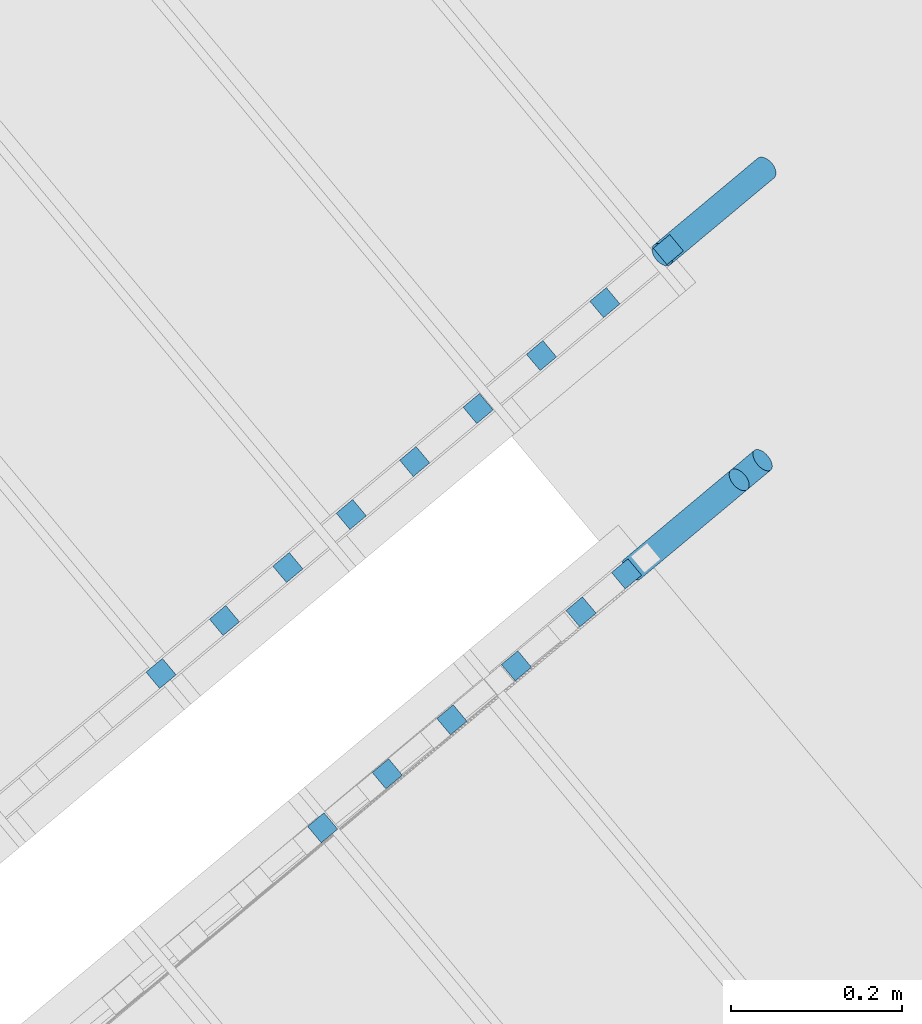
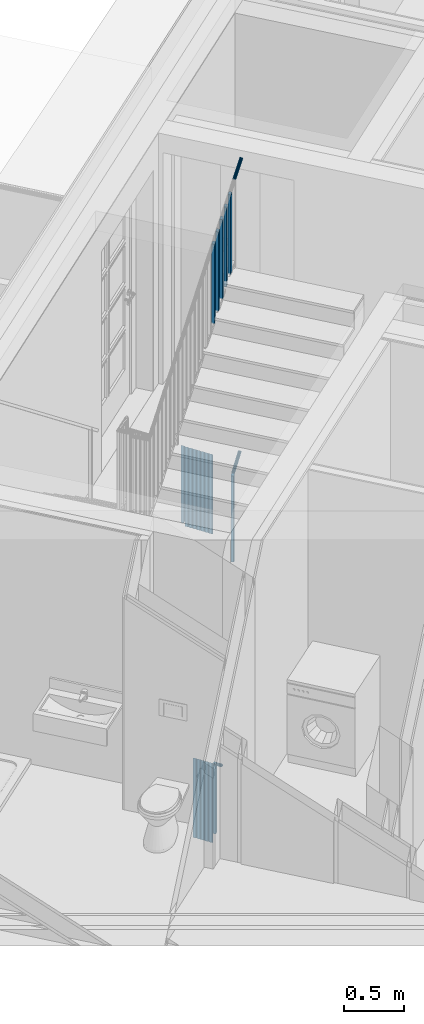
# One storey, part 62 of 75: 23 building element parts, 2 elements without a shape of their own.
"""IFC4 building model written with IfcOpenShell, lengths in metres."""

from ifc_helpers import new_model, entity, si_unit, converted_unit, derived_unit, direction, frame, origin_with_axes, place, context, subcontext, project, spatial, polygons, material, type_object, element, aggregate, save


model = new_model("IFC4")

# Units and contexts
model_context = context("Model", 3, precision=1e-05, world=origin_with_axes(), true_north=direction((0.0, 1.0)))
body_context = subcontext(model_context, "Body", "Model", "MODEL_VIEW")
ifc_project = project(units=[si_unit("LENGTHUNIT", "METRE"), si_unit("AREAUNIT", "SQUARE_METRE"), si_unit("VOLUMEUNIT", "CUBIC_METRE"), converted_unit("PLANEANGLEUNIT", "DEGREE", entity("IfcPlaneAngleMeasure", 0.0174532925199), si_unit("PLANEANGLEUNIT", "RADIAN"), dimensions=[0, 0, 0, 0, 0, 0, 0]), converted_unit("TIMEUNIT", "Year", entity("IfcTimeMeasure", 31556926.0), si_unit("TIMEUNIT", "SECOND"), dimensions=[0, 0, 1, 0, 0, 0, 0]), si_unit("MASSUNIT", "GRAM", prefix="KILO"), si_unit("THERMODYNAMICTEMPERATUREUNIT", "DEGREE_CELSIUS"), si_unit("LUMINOUSINTENSITYUNIT", "LUMEN"), si_unit("ENERGYUNIT", "JOULE", prefix="MEGA"), derived_unit("THERMALCONDUCTANCEUNIT", [(si_unit("POWERUNIT", "WATT"), 1), (si_unit("LENGTHUNIT", "METRE"), -1), (si_unit("THERMODYNAMICTEMPERATUREUNIT", "KELVIN"), -1)]), derived_unit("SPECIFICHEATCAPACITYUNIT", [(si_unit("ENERGYUNIT", "JOULE"), 1), (si_unit("MASSUNIT", "GRAM", prefix="KILO"), -1), (si_unit("THERMODYNAMICTEMPERATUREUNIT", "KELVIN"), -1)]), derived_unit("MASSDENSITYUNIT", [(si_unit("MASSUNIT", "GRAM", prefix="KILO"), 1), (si_unit("VOLUMEUNIT", "CUBIC_METRE"), -1)])], contexts=[model_context])

# Site, building, storey, space
site_placement = place(None, frame((-0.00153261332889, -0.00661245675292, 0.0), z_axis=(0.0, 0.0, 1.0), x_axis=(1.0, 0.0, 0.0)))
site = spatial("IfcSite", under=ifc_project, at=site_placement, Name="Gelände", CompositionType="ELEMENT")
building_placement = place(site_placement, origin_with_axes())
building = spatial("IfcBuilding", under=site, at=building_placement, Name="Gebäude", CompositionType="ELEMENT")
storey_placement = place(building_placement, frame((0.0, 0.0, -0.22), z_axis=(0.0, 0.0, 1.0), x_axis=(1.0, 0.0, 0.0)))
storey = spatial("IfcBuildingStorey", under=building, at=storey_placement, Name="EG", CompositionType="ELEMENT", Elevation=-0.22)
space_placement = place(storey_placement, frame((-1.16508896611, 24.7530172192, 0.22), z_axis=(0.0, 0.0, 1.0), x_axis=(0.641170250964, -0.76739866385, 0.0)))
space = spatial("IfcSpace", under=storey, at=space_placement, CompositionType="ELEMENT", PredefinedType="NOTDEFINED")

# Railing, building element parts
railing_type = type_object("IfcRailingType", Name="Geländerart", PredefinedType="NOTDEFINED")
railing_1_placement = place(space_placement, frame((1.19553434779, -1.19750858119e-08, -0.17), z_axis=(0.0, 0.0, 1.0), x_axis=(0.641170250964, 0.76739866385, 0.0)))
railing_1 = element("IfcRailing", 1, at=railing_1_placement, inside=space, type_object=railing_type, Name="Geländer - 001", PredefinedType="NOTDEFINED")
ifc_material = material(Name="BEKLEIDUNG")
building_element_part_1_placement = place(railing_1_placement, origin_with_axes())
building_element_part_1 = element("IfcBuildingElementPart", 2, at=building_element_part_1_placement, material=ifc_material, Name="BEKLEIDUNG", PredefinedType="NOTDEFINED", context=body_context, shape_type="Tessellation", body=[
    polygons([(-0.0621391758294, -0.305826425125, 3.89721601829), (-0.0630386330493, -0.30687497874, 3.89943593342), (0.0677612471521, -0.197578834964, 4.00405784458), (0.068660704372, -0.196530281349, 4.00183792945), (-0.0609474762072, -0.305127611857, 3.89499610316), (-0.0594997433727, -0.304799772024, 3.89284363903), (-0.0578399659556, -0.304852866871, 3.89082402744), (-0.0560185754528, -0.305285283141, 3.88899863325), (-0.054090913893, -0.306083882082, 3.88742292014), (-0.0521155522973, -0.30722439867, 3.88614476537), (-0.0501525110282, -0.308672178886, 3.88520300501), (-0.0482614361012, -0.310383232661, 3.88462625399), (-0.0464997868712, -0.312305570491, 3.88443203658), (-0.0449210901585, -0.314380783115, 3.88462625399), (-0.043573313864, -0.316545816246, 3.88520300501), (-0.0424974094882, -0.318734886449, 3.88614476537), (-0.0417260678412, -0.320881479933, 3.88742292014), (-0.0412827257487, -0.322920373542, 3.88899863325), (-0.0411808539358, -0.324789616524, 3.89082402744), (-0.041423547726, -0.326432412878, 3.89284363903), (-0.0420034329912, -0.327798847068, 3.89499610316), (-0.0429028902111, -0.328847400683, 3.89721601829), (-0.0440945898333, -0.329546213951, 3.89943593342), (-0.0455423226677, -0.329874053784, 3.90158839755), (-0.0472021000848, -0.329820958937, 3.90360800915), (-0.0490234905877, -0.329388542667, 3.90543340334), (-0.0509511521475, -0.328589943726, 3.90700911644), (-0.0529265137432, -0.327449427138, 3.90828727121), (-0.0548895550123, -0.326001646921, 3.90922903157), (-0.0567806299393, -0.324290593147, 3.90980578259), (-0.0585422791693, -0.322368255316, 3.91), (-0.0601209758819, -0.320293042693, 3.90980578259), (-0.0614687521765, -0.318128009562, 3.90922903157), (-0.0625446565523, -0.315938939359, 3.90828727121), (-0.0633159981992, -0.313792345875, 3.90700911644), (-0.0637593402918, -0.311753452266, 3.90543340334), (-0.0638612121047, -0.309884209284, 3.90360800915), (-0.0636185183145, -0.30824141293, 3.90158839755), (0.0671813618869, -0.198945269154, 4.00621030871), (0.0669386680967, -0.200588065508, 4.00822992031), (0.0670405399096, -0.20245730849, 4.0100553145), (0.0674838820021, -0.204496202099, 4.0116310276), (0.0682552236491, -0.206642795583, 4.01290918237), (0.0693311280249, -0.208831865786, 4.01385094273), (0.0706789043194, -0.210996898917, 4.01442769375), (0.0722576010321, -0.213072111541, 4.01462191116), (0.0740192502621, -0.214994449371, 4.01442769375), (0.0759103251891, -0.216705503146, 4.01385094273), (0.0778733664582, -0.218153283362, 4.01290918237), (0.0798487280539, -0.21929379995, 4.0116310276), (0.0817763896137, -0.220092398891, 4.0100553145), (0.0835977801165, -0.220524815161, 4.00822992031), (0.0852575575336, -0.220577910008, 4.00621030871), (0.0867052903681, -0.220250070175, 4.00405784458), (0.0878969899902, -0.219551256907, 4.00183792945), (0.0887964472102, -0.218502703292, 3.99961801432), (0.0893763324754, -0.217136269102, 3.9974655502), (0.0896190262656, -0.215493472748, 3.9954459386), (0.0895171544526, -0.213624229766, 3.99362054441), (0.0890738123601, -0.211585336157, 3.9920448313), (0.0883024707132, -0.209438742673, 3.99076667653), (0.0872265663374, -0.20724967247, 3.98982491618), (0.0858787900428, -0.205084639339, 3.98924816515), (0.0843000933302, -0.203009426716, 3.98905394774), (0.0825384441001, -0.201087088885, 3.98924816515), (0.0806473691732, -0.199376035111, 3.98982491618), (0.0786843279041, -0.197928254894, 3.99076667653), (0.0767089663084, -0.196787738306, 3.9920448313), (0.0747813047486, -0.195989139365, 3.99362054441), (0.0729599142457, -0.195556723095, 3.9954459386), (0.0713001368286, -0.195503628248, 3.9974655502), (0.0698524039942, -0.195831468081, 3.99961801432)], [[[1, 2, 3, 4]], [[1, 5, 6, 7, 8, 9, 10, 11, 12, 13, 14, 15, 16, 17, 18, 19, 20, 21, 22, 23, 24, 25, 26, 27, 28, 29, 30, 31, 32, 33, 34, 35, 36, 37, 38, 2]], [[2, 38, 39, 3]], [[4, 3, 39, 40, 41, 42, 43, 44, 45, 46, 47, 48, 49, 50, 51, 52, 53, 54, 55, 56, 57, 58, 59, 60, 61, 62, 63, 64, 65, 66, 67, 68, 69, 70, 71, 72]], [[5, 1, 4, 72]], [[6, 5, 72, 71]], [[7, 6, 71, 70]], [[8, 7, 70, 69]], [[9, 8, 69, 68]], [[10, 9, 68, 67]], [[11, 10, 67, 66]], [[12, 11, 66, 65]], [[13, 12, 65, 64]], [[14, 13, 64, 63]], [[15, 14, 63, 62]], [[16, 15, 62, 61]], [[17, 16, 61, 60]], [[18, 17, 60, 59]], [[19, 18, 59, 58]], [[20, 19, 58, 57]], [[21, 20, 57, 56]], [[22, 21, 56, 55]], [[23, 22, 55, 54]], [[24, 23, 54, 53]], [[25, 24, 53, 52]], [[26, 25, 52, 51]], [[27, 26, 51, 50]], [[28, 27, 50, 49]], [[29, 28, 49, 48]], [[30, 29, 48, 47]], [[31, 30, 47, 46]], [[32, 31, 46, 45]], [[33, 32, 45, 44]], [[34, 33, 44, 43]], [[35, 34, 43, 42]], [[36, 35, 42, 41]], [[37, 36, 41, 40]], [[38, 37, 40, 39]]], closed=True),
])
building_element_part_2_placement = place(railing_1_placement, origin_with_axes())
building_element_part_2 = element("IfcBuildingElementPart", 3, at=building_element_part_2_placement, material=ifc_material, Name="BEKLEIDUNG", PredefinedType="NOTDEFINED", context=body_context, shape_type="Tessellation", body=[
    polygons([(-0.123876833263, -0.0220565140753, 0.155144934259), (-0.107847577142, -0.0412414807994, 0.155144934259), (-0.107847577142, -0.0412414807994, 0.962644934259), (-0.123876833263, -0.0220565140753, 0.962644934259), (-0.104691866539, -0.00602725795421, 0.135652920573), (-0.0886626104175, -0.0252122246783, 0.135652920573), (-0.0886626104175, -0.0252122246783, 0.943152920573), (-0.104691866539, -0.00602725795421, 0.943152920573)], [[[1, 2, 3, 4]], [[1, 5, 6, 2]], [[2, 6, 7, 3]], [[4, 3, 7, 8]], [[5, 1, 4, 8]], [[6, 5, 8, 7]]], closed=True),
])
building_element_part_3_placement = place(railing_1_placement, origin_with_axes())
building_element_part_3 = element("IfcBuildingElementPart", 4, at=building_element_part_3_placement, material=ifc_material, Name="BEKLEIDUNG", PredefinedType="NOTDEFINED", context=body_context, shape_type="Tessellation", body=[
    polygons([(-0.198088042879, -0.0840608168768, 0.230543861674), (-0.182058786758, -0.103245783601, 0.230543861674), (-0.182058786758, -0.103245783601, 1.03804386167), (-0.198088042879, -0.0840608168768, 1.03804386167), (-0.178903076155, -0.0680315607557, 0.211051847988), (-0.162873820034, -0.0872165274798, 0.211051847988), (-0.162873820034, -0.0872165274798, 1.01855184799), (-0.178903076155, -0.0680315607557, 1.01855184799)], [[[1, 2, 3, 4]], [[1, 5, 6, 2]], [[2, 6, 7, 3]], [[4, 3, 7, 8]], [[5, 1, 4, 8]], [[6, 5, 8, 7]]], closed=True),
])
building_element_part_4_placement = place(railing_1_placement, origin_with_axes())
building_element_part_4 = element("IfcBuildingElementPart", 5, at=building_element_part_4_placement, material=ifc_material, Name="BEKLEIDUNG", PredefinedType="NOTDEFINED", context=body_context, shape_type="Tessellation", body=[
    polygons([(-0.272299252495, -0.146065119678, 0.30594278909), (-0.256269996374, -0.165250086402, 0.30594278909), (-0.256269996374, -0.165250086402, 1.11344278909), (-0.272299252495, -0.146065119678, 1.11344278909), (-0.253114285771, -0.130035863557, 0.286450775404), (-0.23708502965, -0.149220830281, 0.286450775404), (-0.23708502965, -0.149220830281, 1.0939507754), (-0.253114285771, -0.130035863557, 1.0939507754)], [[[1, 2, 3, 4]], [[1, 5, 6, 2]], [[2, 6, 7, 3]], [[4, 3, 7, 8]], [[5, 1, 4, 8]], [[6, 5, 8, 7]]], closed=True),
])
building_element_part_5_placement = place(railing_1_placement, origin_with_axes())
building_element_part_5 = element("IfcBuildingElementPart", 6, at=building_element_part_5_placement, material=ifc_material, Name="BEKLEIDUNG", PredefinedType="NOTDEFINED", context=body_context, shape_type="Tessellation", body=[
    polygons([(-0.346510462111, -0.20806942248, 0.381341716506), (-0.33048120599, -0.227254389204, 0.381341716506), (-0.33048120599, -0.227254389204, 1.18884171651), (-0.346510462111, -0.20806942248, 1.18884171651), (-0.327325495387, -0.192040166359, 0.36184970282), (-0.311296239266, -0.211225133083, 0.36184970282), (-0.311296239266, -0.211225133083, 1.16934970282), (-0.327325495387, -0.192040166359, 1.16934970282)], [[[1, 2, 3, 4]], [[1, 5, 6, 2]], [[2, 6, 7, 3]], [[4, 3, 7, 8]], [[5, 1, 4, 8]], [[6, 5, 8, 7]]], closed=True),
])
building_element_part_6_placement = place(railing_1_placement, origin_with_axes())
building_element_part_6 = element("IfcBuildingElementPart", 7, at=building_element_part_6_placement, material=ifc_material, Name="BEKLEIDUNG", PredefinedType="NOTDEFINED", context=body_context, shape_type="Tessellation", body=[
    polygons([(-0.420721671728, -0.270073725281, 0.456740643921), (-0.404692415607, -0.289258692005, 0.456740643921), (-0.404692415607, -0.289258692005, 1.26424064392), (-0.420721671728, -0.270073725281, 1.26424064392), (-0.401536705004, -0.25404446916, 0.437248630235), (-0.385507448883, -0.273229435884, 0.437248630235), (-0.385507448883, -0.273229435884, 1.24474863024), (-0.401536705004, -0.25404446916, 1.24474863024)], [[[1, 2, 3, 4]], [[1, 5, 6, 2]], [[2, 6, 7, 3]], [[4, 3, 7, 8]], [[5, 1, 4, 8]], [[6, 5, 8, 7]]], closed=True),
])
building_element_part_7_placement = place(railing_1_placement, origin_with_axes())
building_element_part_7 = element("IfcBuildingElementPart", 8, at=building_element_part_7_placement, material=ifc_material, Name="BEKLEIDUNG", PredefinedType="NOTDEFINED", context=body_context, shape_type="Tessellation", body=[
    polygons([(-0.494932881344, -0.332078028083, 0.532139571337), (-0.478903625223, -0.351262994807, 0.532139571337), (-0.478903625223, -0.351262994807, 1.33963957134), (-0.494932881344, -0.332078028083, 1.33963957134), (-0.47574791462, -0.316048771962, 0.512647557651), (-0.459718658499, -0.335233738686, 0.512647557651), (-0.459718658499, -0.335233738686, 1.32014755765), (-0.47574791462, -0.316048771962, 1.32014755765)], [[[1, 2, 3, 4]], [[1, 5, 6, 2]], [[2, 6, 7, 3]], [[4, 3, 7, 8]], [[5, 1, 4, 8]], [[6, 5, 8, 7]]], closed=True),
])
building_element_part_8_placement = place(railing_1_placement, origin_with_axes())
building_element_part_8 = element("IfcBuildingElementPart", 9, at=building_element_part_8_placement, material=ifc_material, Name="BEKLEIDUNG", PredefinedType="NOTDEFINED", context=body_context, shape_type="Tessellation", body=[
    polygons([(-0.56914409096, -0.394082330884, 0.607538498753), (-0.553114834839, -0.413267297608, 0.607538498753), (-0.553114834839, -0.413267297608, 1.41503849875), (-0.56914409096, -0.394082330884, 1.41503849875), (-0.549959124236, -0.378053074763, 0.588046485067), (-0.533929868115, -0.397238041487, 0.588046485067), (-0.533929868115, -0.397238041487, 1.39554648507), (-0.549959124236, -0.378053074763, 1.39554648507)], [[[1, 2, 3, 4]], [[1, 5, 6, 2]], [[2, 6, 7, 3]], [[4, 3, 7, 8]], [[5, 1, 4, 8]], [[6, 5, 8, 7]]], closed=True),
])
building_element_part_9_placement = place(railing_1_placement, origin_with_axes())
building_element_part_9 = element("IfcBuildingElementPart", 10, at=building_element_part_9_placement, material=ifc_material, Name="BEKLEIDUNG", PredefinedType="NOTDEFINED", context=body_context, shape_type="Tessellation", body=[
    polygons([(-0.643355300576, -0.456086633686, 0.708235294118), (-0.627326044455, -0.47527160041, 0.708235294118), (-0.627326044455, -0.47527160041, 1.49293742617), (-0.643355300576, -0.456086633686, 1.49293742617), (-0.624170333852, -0.440057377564, 0.708235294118), (-0.608141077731, -0.459242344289, 0.708235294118), (-0.608141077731, -0.459242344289, 1.47344541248), (-0.624170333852, -0.440057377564, 1.47344541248)], [[[1, 2, 3, 4]], [[1, 5, 6, 2]], [[2, 6, 7, 3]], [[4, 3, 7, 8]], [[5, 1, 4, 8]], [[6, 5, 8, 7]]], closed=True),
])
building_element_part_10_placement = place(railing_1_placement, origin_with_axes())
building_element_part_10 = element("IfcBuildingElementPart", 11, at=building_element_part_10_placement, material=ifc_material, Name="BEKLEIDUNG", PredefinedType="NOTDEFINED", context=body_context, shape_type="Tessellation", body=[
    polygons([(-0.41900638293, -0.639860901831, 2.78526731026), (-0.435036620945, -0.620676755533, 2.78526731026), (-0.435036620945, -0.620676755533, 3.59276731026), (-0.41900638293, -0.639860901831, 3.59276731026), (-0.438190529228, -0.655891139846, 2.76992263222), (-0.454220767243, -0.636706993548, 2.76992263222), (-0.454220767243, -0.636706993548, 3.57742263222), (-0.438190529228, -0.655891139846, 3.57742263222)], [[[1, 2, 3, 4]], [[1, 5, 6, 2]], [[2, 6, 7, 3]], [[4, 3, 7, 8]], [[5, 1, 4, 8]], [[6, 5, 8, 7]]], closed=True),
])
building_element_part_11_placement = place(railing_1_placement, origin_with_axes())
building_element_part_11 = element("IfcBuildingElementPart", 12, at=building_element_part_11_placement, material=ifc_material, Name="BEKLEIDUNG", PredefinedType="NOTDEFINED", context=body_context, shape_type="Tessellation", body=[
    polygons([(-0.343392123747, -0.576677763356, 2.84574831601), (-0.359422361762, -0.557493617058, 2.84574831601), (-0.359422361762, -0.557493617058, 3.65324831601), (-0.343392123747, -0.576677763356, 3.65324831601), (-0.362576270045, -0.592708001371, 2.83040363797), (-0.37860650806, -0.573523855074, 2.83040363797), (-0.37860650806, -0.573523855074, 3.63790363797), (-0.362576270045, -0.592708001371, 3.63790363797)], [[[1, 2, 3, 4]], [[1, 5, 6, 2]], [[2, 6, 7, 3]], [[4, 3, 7, 8]], [[5, 1, 4, 8]], [[6, 5, 8, 7]]], closed=True),
])
building_element_part_12_placement = place(railing_1_placement, origin_with_axes())
building_element_part_12 = element("IfcBuildingElementPart", 13, at=building_element_part_12_placement, material=ifc_material, Name="BEKLEIDUNG", PredefinedType="NOTDEFINED", context=body_context, shape_type="Tessellation", body=[
    polygons([(-0.267777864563, -0.513494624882, 2.90622932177), (-0.283808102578, -0.494310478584, 2.90622932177), (-0.283808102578, -0.494310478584, 3.71372932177), (-0.267777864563, -0.513494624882, 3.71372932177), (-0.286962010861, -0.529524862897, 2.89088464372), (-0.302992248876, -0.510340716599, 2.89088464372), (-0.302992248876, -0.510340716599, 3.69838464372), (-0.286962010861, -0.529524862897, 3.69838464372)], [[[1, 2, 3, 4]], [[1, 5, 6, 2]], [[2, 6, 7, 3]], [[4, 3, 7, 8]], [[5, 1, 4, 8]], [[6, 5, 8, 7]]], closed=True),
])
building_element_part_13_placement = place(railing_1_placement, origin_with_axes())
building_element_part_13 = element("IfcBuildingElementPart", 14, at=building_element_part_13_placement, material=ifc_material, Name="BEKLEIDUNG", PredefinedType="NOTDEFINED", context=body_context, shape_type="Tessellation", body=[
    polygons([(-0.19216360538, -0.450311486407, 2.96671032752), (-0.208193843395, -0.431127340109, 2.96671032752), (-0.208193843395, -0.431127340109, 3.77421032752), (-0.19216360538, -0.450311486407, 3.77421032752), (-0.211347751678, -0.466341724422, 2.95136564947), (-0.227377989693, -0.447157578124, 2.95136564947), (-0.227377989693, -0.447157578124, 3.75886564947), (-0.211347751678, -0.466341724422, 3.75886564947)], [[[1, 2, 3, 4]], [[1, 5, 6, 2]], [[2, 6, 7, 3]], [[4, 3, 7, 8]], [[5, 1, 4, 8]], [[6, 5, 8, 7]]], closed=True),
])
building_element_part_14_placement = place(railing_1_placement, origin_with_axes())
building_element_part_14 = element("IfcBuildingElementPart", 15, at=building_element_part_14_placement, material=ifc_material, Name="BEKLEIDUNG", PredefinedType="NOTDEFINED", context=body_context, shape_type="Tessellation", body=[
    polygons([(-0.116549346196, -0.387128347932, 3.02719133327), (-0.132579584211, -0.367944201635, 3.02719133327), (-0.132579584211, -0.367944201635, 3.83469133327), (-0.116549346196, -0.387128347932, 3.83469133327), (-0.135733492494, -0.403158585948, 3.01184665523), (-0.151763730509, -0.38397443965, 3.01184665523), (-0.151763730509, -0.38397443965, 3.81934665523), (-0.135733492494, -0.403158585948, 3.81934665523)], [[[1, 2, 3, 4]], [[1, 5, 6, 2]], [[2, 6, 7, 3]], [[4, 3, 7, 8]], [[5, 1, 4, 8]], [[6, 5, 8, 7]]], closed=True),
])
aggregate(railing_1, [building_element_part_1, building_element_part_2, building_element_part_3, building_element_part_4, building_element_part_5, building_element_part_6, building_element_part_7, building_element_part_8, building_element_part_9, building_element_part_10, building_element_part_11, building_element_part_12, building_element_part_13, building_element_part_14])

railing_2_placement = place(space_placement, frame((1.1955343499, 0.255237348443, -3.3), z_axis=(0.0, 0.0, 1.0), x_axis=(0.641170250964, 0.76739866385, 0.0)))
railing_2 = element("IfcRailing", 16, at=railing_2_placement, inside=space, type_object=railing_type, Name="Geländer - 001", PredefinedType="NOTDEFINED")
building_element_part_15_placement = place(railing_2_placement, origin_with_axes())
building_element_part_15 = element("IfcBuildingElementPart", 17, at=building_element_part_15_placement, material=ifc_material, Name="BEKLEIDUNG", PredefinedType="NOTDEFINED", context=body_context, shape_type="Tessellation", body=[
    polygons([(-0.245534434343, -0.123702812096, 0.176666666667), (-0.229505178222, -0.14288777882, 0.176666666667), (-0.229505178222, -0.14288777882, 0.889724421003), (-0.245534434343, -0.123702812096, 0.889724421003), (-0.226349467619, -0.107673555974, 0.176666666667), (-0.210320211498, -0.126858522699, 0.176666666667), (-0.210320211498, -0.126858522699, 0.870275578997), (-0.226349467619, -0.107673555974, 0.870275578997)], [[[1, 2, 3, 4]], [[1, 5, 6, 2]], [[2, 6, 7, 3]], [[4, 3, 7, 8]], [[5, 1, 4, 8]], [[6, 5, 8, 7]]], closed=True),
])
building_element_part_16_placement = place(railing_2_placement, origin_with_axes())
building_element_part_16 = element("IfcBuildingElementPart", 18, at=building_element_part_16_placement, material=ifc_material, Name="BEKLEIDUNG", PredefinedType="NOTDEFINED", context=body_context, shape_type="Tessellation", body=[
    polygons([(-0.244612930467, -0.119675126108, 0.88816072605), (-0.243239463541, -0.118824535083, 0.890216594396), (-0.122100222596, -0.0176113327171, 0.767411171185), (-0.123473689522, -0.0184619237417, 0.765355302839), (-0.245694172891, -0.120875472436, 0.886104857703), (-0.246450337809, -0.122389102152, 0.884111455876), (-0.246858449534, -0.124170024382, 0.882241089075), (-0.246906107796, -0.126164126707, 0.880550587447), (-0.246591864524, -0.128310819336, 0.87909131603), (-0.24592526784, -0.130544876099, 0.877907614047), (-0.244926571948, -0.132798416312, 0.877035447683), (-0.243626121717, -0.135002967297, 0.876501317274), (-0.242063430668, -0.137091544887, 0.8763214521), (-0.240285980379, -0.139000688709, 0.876501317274), (-0.238347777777, -0.140672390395, 0.877035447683), (-0.236307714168, -0.142055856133, 0.877907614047), (-0.234227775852, -0.143109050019, 0.87909131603), (-0.232171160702, -0.143799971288, 0.880550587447), (-0.230200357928, -0.144107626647, 0.882241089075), (-0.228375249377, -0.144022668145, 0.884111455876), (-0.226751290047, -0.143547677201, 0.886104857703), (-0.225377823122, -0.142697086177, 0.88816072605), (-0.224296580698, -0.141496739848, 0.890216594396), (-0.223540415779, -0.139983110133, 0.892209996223), (-0.223132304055, -0.138202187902, 0.894080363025), (-0.223084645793, -0.136208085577, 0.895770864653), (-0.223398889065, -0.134061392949, 0.89723013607), (-0.224065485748, -0.131827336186, 0.898413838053), (-0.225064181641, -0.129573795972, 0.899286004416), (-0.226364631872, -0.127369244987, 0.899820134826), (-0.227927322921, -0.125280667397, 0.9), (-0.22970477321, -0.123371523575, 0.899820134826), (-0.231642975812, -0.12169982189, 0.899286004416), (-0.233683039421, -0.120316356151, 0.898413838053), (-0.235762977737, -0.119263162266, 0.89723013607), (-0.237819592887, -0.118572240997, 0.895770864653), (-0.23979039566, -0.118264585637, 0.894080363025), (-0.241615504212, -0.11834954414, 0.892209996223), (-0.120476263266, -0.0171363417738, 0.769404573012), (-0.118651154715, -0.0170513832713, 0.771274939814), (-0.116680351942, -0.0173590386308, 0.772965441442), (-0.114623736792, -0.0180499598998, 0.774424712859), (-0.112543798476, -0.0191031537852, 0.775608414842), (-0.110503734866, -0.0204866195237, 0.776480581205), (-0.108565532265, -0.0221583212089, 0.777014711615), (-0.106788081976, -0.0240674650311, 0.777194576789), (-0.105225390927, -0.0261560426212, 0.777014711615), (-0.103924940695, -0.0283605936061, 0.776480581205), (-0.102926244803, -0.0306141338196, 0.775608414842), (-0.102259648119, -0.0328481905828, 0.774424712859), (-0.101945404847, -0.0349948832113, 0.772965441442), (-0.10199306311, -0.0369889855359, 0.771274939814), (-0.102401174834, -0.0387699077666, 0.769404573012), (-0.103157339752, -0.0402835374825, 0.767411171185), (-0.104238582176, -0.0414838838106, 0.765355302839), (-0.105612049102, -0.0423344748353, 0.763299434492), (-0.107236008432, -0.0428094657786, 0.761306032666), (-0.109061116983, -0.042894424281, 0.759435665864), (-0.111031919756, -0.0425867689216, 0.757745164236), (-0.113088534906, -0.0418958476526, 0.756285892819), (-0.115168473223, -0.0408426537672, 0.755102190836), (-0.117208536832, -0.0394591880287, 0.754230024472), (-0.119146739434, -0.0377874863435, 0.753695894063), (-0.120924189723, -0.0358783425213, 0.753516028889), (-0.122486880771, -0.0337897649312, 0.753695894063), (-0.123787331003, -0.0315852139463, 0.754230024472), (-0.124786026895, -0.0293316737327, 0.755102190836), (-0.125452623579, -0.0270976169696, 0.756285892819), (-0.125766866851, -0.0249509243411, 0.757745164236), (-0.125719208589, -0.0229568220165, 0.759435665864), (-0.125311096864, -0.0211758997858, 0.761306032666), (-0.124554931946, -0.0196622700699, 0.763299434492)], [[[1, 2, 3, 4]], [[1, 5, 6, 7, 8, 9, 10, 11, 12, 13, 14, 15, 16, 17, 18, 19, 20, 21, 22, 23, 24, 25, 26, 27, 28, 29, 30, 31, 32, 33, 34, 35, 36, 37, 38, 2]], [[2, 38, 39, 3]], [[4, 3, 39, 40, 41, 42, 43, 44, 45, 46, 47, 48, 49, 50, 51, 52, 53, 54, 55, 56, 57, 58, 59, 60, 61, 62, 63, 64, 65, 66, 67, 68, 69, 70, 71, 72]], [[5, 1, 4, 72]], [[6, 5, 72, 71]], [[7, 6, 71, 70]], [[8, 7, 70, 69]], [[9, 8, 69, 68]], [[10, 9, 68, 67]], [[11, 10, 67, 66]], [[12, 11, 66, 65]], [[13, 12, 65, 64]], [[14, 13, 64, 63]], [[15, 14, 63, 62]], [[16, 15, 62, 61]], [[17, 16, 61, 60]], [[18, 17, 60, 59]], [[19, 18, 59, 58]], [[20, 19, 58, 57]], [[21, 20, 57, 56]], [[22, 21, 56, 55]], [[23, 22, 55, 54]], [[24, 23, 54, 53]], [[25, 24, 53, 52]], [[26, 25, 52, 51]], [[27, 26, 51, 50]], [[28, 27, 50, 49]], [[29, 28, 49, 48]], [[30, 29, 48, 47]], [[31, 30, 47, 46]], [[32, 31, 46, 45]], [[33, 32, 45, 44]], [[34, 33, 44, 43]], [[35, 34, 43, 42]], [[36, 35, 42, 41]], [[37, 36, 41, 40]], [[38, 37, 40, 39]]], closed=True),
])
building_element_part_17_placement = place(railing_2_placement, origin_with_axes())
building_element_part_17 = element("IfcBuildingElementPart", 19, at=building_element_part_17_placement, material=ifc_material, Name="BEKLEIDUNG", PredefinedType="NOTDEFINED", context=body_context, shape_type="Tessellation", body=[
    polygons([(-0.25921670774, -0.506323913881, 3.18), (-0.275246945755, -0.487139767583, 3.18), (-0.275246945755, -0.487139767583, 4.06887737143), (-0.25921670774, -0.506323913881, 4.06887737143), (-0.278400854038, -0.522354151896, 3.18), (-0.294431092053, -0.503170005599, 3.18), (-0.294431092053, -0.503170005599, 4.05112262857), (-0.278400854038, -0.522354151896, 4.05112262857)], [[[1, 2, 3, 4]], [[1, 5, 6, 2]], [[2, 6, 7, 3]], [[4, 3, 7, 8]], [[5, 1, 4, 8]], [[6, 5, 8, 7]]], closed=True),
])
building_element_part_18_placement = place(railing_2_placement, origin_with_axes())
building_element_part_18 = element("IfcBuildingElementPart", 20, at=building_element_part_18_placement, material=ifc_material, Name="BEKLEIDUNG", PredefinedType="NOTDEFINED", context=body_context, shape_type="Tessellation", body=[
    polygons([(-0.279777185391, -0.48766732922, 4.06777035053), (-0.280788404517, -0.488809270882, 4.06989400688), (-0.155660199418, -0.384252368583, 4.18569895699), (-0.154648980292, -0.383110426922, 4.18357530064), (-0.278473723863, -0.486875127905, 4.06564669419), (-0.276917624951, -0.486456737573, 4.06358756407), (-0.275156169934, -0.486424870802, 4.0616555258), (-0.273242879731, -0.486780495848, 4.05990928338), (-0.271235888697, -0.487512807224, 4.05840189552), (-0.269196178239, -0.488599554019, 4.05717916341), (-0.267185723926, -0.490007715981, 4.05627823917), (-0.265265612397, -0.491694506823, 4.05572649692), (-0.263494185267, -0.493608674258, 4.05554070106), (-0.261925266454, -0.495692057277, 4.05572649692), (-0.260606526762, -0.497881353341, 4.05627823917), (-0.25957803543, -0.500110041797, 4.05717916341), (-0.258871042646, -0.502310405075, 4.05840189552), (-0.258507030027, -0.504415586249, 4.05990928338), (-0.258497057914, -0.506361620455, 4.0616555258), (-0.258841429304, -0.508089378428, 4.06358756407), (-0.259529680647, -0.509546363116, 4.06564669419), (-0.260540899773, -0.510688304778, 4.06777035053), (-0.261844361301, -0.511480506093, 4.06989400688), (-0.263400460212, -0.511898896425, 4.071953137), (-0.265161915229, -0.511930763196, 4.07388517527), (-0.267075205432, -0.51157513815, 4.07563141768), (-0.269082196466, -0.510842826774, 4.07713880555), (-0.271121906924, -0.509756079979, 4.07836153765), (-0.273132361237, -0.508347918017, 4.07926246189), (-0.275052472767, -0.506661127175, 4.07981420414), (-0.276823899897, -0.50474695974, 4.08), (-0.278392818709, -0.502663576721, 4.07981420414), (-0.279711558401, -0.500474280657, 4.07926246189), (-0.280740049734, -0.498245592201, 4.07836153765), (-0.281447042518, -0.496045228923, 4.07713880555), (-0.281811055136, -0.493940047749, 4.07563141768), (-0.281821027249, -0.491994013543, 4.07388517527), (-0.281476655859, -0.49026625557, 4.071953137), (-0.156348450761, -0.385709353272, 4.18775808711), (-0.156692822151, -0.387437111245, 4.18969012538), (-0.156682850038, -0.38938314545, 4.19143636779), (-0.156318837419, -0.391488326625, 4.19294375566), (-0.155611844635, -0.393688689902, 4.19416648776), (-0.154583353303, -0.395917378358, 4.195067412), (-0.153264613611, -0.398106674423, 4.19561915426), (-0.151695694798, -0.400190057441, 4.19580495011), (-0.149924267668, -0.402104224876, 4.19561915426), (-0.148004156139, -0.403791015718, 4.195067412), (-0.145993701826, -0.405199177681, 4.19416648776), (-0.143953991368, -0.406285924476, 4.19294375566), (-0.141947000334, -0.407018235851, 4.19143636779), (-0.140033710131, -0.407373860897, 4.18969012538), (-0.138272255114, -0.407341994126, 4.18775808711), (-0.136716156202, -0.406923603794, 4.18569895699), (-0.135412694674, -0.406131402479, 4.18357530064), (-0.134401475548, -0.404989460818, 4.1814516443), (-0.133713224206, -0.403532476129, 4.17939251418), (-0.133368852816, -0.401804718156, 4.17746047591), (-0.133378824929, -0.399858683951, 4.1757142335), (-0.133742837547, -0.397753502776, 4.17420684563), (-0.134449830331, -0.395553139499, 4.17298411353), (-0.135478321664, -0.393324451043, 4.17208318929), (-0.136797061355, -0.391135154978, 4.17153144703), (-0.138365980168, -0.38905177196, 4.17134565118), (-0.140137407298, -0.387137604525, 4.17153144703), (-0.142057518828, -0.385450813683, 4.17208318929), (-0.14406797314, -0.38404265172, 4.17298411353), (-0.146107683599, -0.382955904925, 4.17420684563), (-0.148114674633, -0.38222359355, 4.1757142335), (-0.150027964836, -0.381867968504, 4.17746047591), (-0.151789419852, -0.381899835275, 4.17939251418), (-0.153345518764, -0.382318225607, 4.1814516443)], [[[1, 2, 3, 4]], [[1, 5, 6, 7, 8, 9, 10, 11, 12, 13, 14, 15, 16, 17, 18, 19, 20, 21, 22, 23, 24, 25, 26, 27, 28, 29, 30, 31, 32, 33, 34, 35, 36, 37, 38, 2]], [[2, 38, 39, 3]], [[4, 3, 39, 40, 41, 42, 43, 44, 45, 46, 47, 48, 49, 50, 51, 52, 53, 54, 55, 56, 57, 58, 59, 60, 61, 62, 63, 64, 65, 66, 67, 68, 69, 70, 71, 72]], [[5, 1, 4, 72]], [[6, 5, 72, 71]], [[7, 6, 71, 70]], [[8, 7, 70, 69]], [[9, 8, 69, 68]], [[10, 9, 68, 67]], [[11, 10, 67, 66]], [[12, 11, 66, 65]], [[13, 12, 65, 64]], [[14, 13, 64, 63]], [[15, 14, 63, 62]], [[16, 15, 62, 61]], [[17, 16, 61, 60]], [[18, 17, 60, 59]], [[19, 18, 59, 58]], [[20, 19, 58, 57]], [[21, 20, 57, 56]], [[22, 21, 56, 55]], [[23, 22, 55, 54]], [[24, 23, 54, 53]], [[25, 24, 53, 52]], [[26, 25, 52, 51]], [[27, 26, 51, 50]], [[28, 27, 50, 49]], [[29, 28, 49, 48]], [[30, 29, 48, 47]], [[31, 30, 47, 46]], [[32, 31, 46, 45]], [[33, 32, 45, 44]], [[34, 33, 44, 43]], [[35, 34, 43, 42]], [[36, 35, 42, 41]], [[37, 36, 41, 40]], [[38, 37, 40, 39]]], closed=True),
])
building_element_part_19_placement = place(railing_2_placement, origin_with_axes())
building_element_part_19 = element("IfcBuildingElementPart", 21, at=building_element_part_19_placement, material=ifc_material, Name="BEKLEIDUNG", PredefinedType="NOTDEFINED", context=body_context, shape_type="Tessellation", body=[
    polygons([(-0.31974564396, -0.185707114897, 0.154956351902), (-0.303716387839, -0.204892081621, 0.154956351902), (-0.303716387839, -0.204892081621, 0.962456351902), (-0.31974564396, -0.185707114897, 0.962456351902), (-0.300560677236, -0.169677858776, 0.135507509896), (-0.284531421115, -0.1888628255, 0.135507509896), (-0.284531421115, -0.1888628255, 0.943007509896), (-0.300560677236, -0.169677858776, 0.943007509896)], [[[1, 2, 3, 4]], [[1, 5, 6, 2]], [[2, 6, 7, 3]], [[4, 3, 7, 8]], [[5, 1, 4, 8]], [[6, 5, 8, 7]]], closed=True),
])
building_element_part_20_placement = place(railing_2_placement, origin_with_axes())
building_element_part_20 = element("IfcBuildingElementPart", 22, at=building_element_part_20_placement, material=ifc_material, Name="BEKLEIDUNG", PredefinedType="NOTDEFINED", context=body_context, shape_type="Tessellation", body=[
    polygons([(-0.393956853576, -0.247711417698, 0.2301882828), (-0.377927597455, -0.266896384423, 0.2301882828), (-0.377927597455, -0.266896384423, 1.0376882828), (-0.393956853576, -0.247711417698, 1.0376882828), (-0.374771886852, -0.231682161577, 0.210739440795), (-0.358742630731, -0.250867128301, 0.210739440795), (-0.358742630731, -0.250867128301, 1.01823944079), (-0.374771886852, -0.231682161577, 1.01823944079)], [[[1, 2, 3, 4]], [[1, 5, 6, 2]], [[2, 6, 7, 3]], [[4, 3, 7, 8]], [[5, 1, 4, 8]], [[6, 5, 8, 7]]], closed=True),
])
building_element_part_21_placement = place(railing_2_placement, origin_with_axes())
building_element_part_21 = element("IfcBuildingElementPart", 23, at=building_element_part_21_placement, material=ifc_material, Name="BEKLEIDUNG", PredefinedType="NOTDEFINED", context=body_context, shape_type="Tessellation", body=[
    polygons([(-0.468168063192, -0.3097157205, 0.305420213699), (-0.452138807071, -0.328900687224, 0.305420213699), (-0.452138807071, -0.328900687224, 1.1129202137), (-0.468168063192, -0.3097157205, 1.1129202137), (-0.448983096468, -0.293686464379, 0.285971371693), (-0.432953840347, -0.312871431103, 0.285971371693), (-0.432953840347, -0.312871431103, 1.09347137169), (-0.448983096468, -0.293686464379, 1.09347137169)], [[[1, 2, 3, 4]], [[1, 5, 6, 2]], [[2, 6, 7, 3]], [[4, 3, 7, 8]], [[5, 1, 4, 8]], [[6, 5, 8, 7]]], closed=True),
])
building_element_part_22_placement = place(railing_2_placement, origin_with_axes())
building_element_part_22 = element("IfcBuildingElementPart", 24, at=building_element_part_22_placement, material=ifc_material, Name="BEKLEIDUNG", PredefinedType="NOTDEFINED", context=body_context, shape_type="Tessellation", body=[
    polygons([(-0.542379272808, -0.371720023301, 0.380652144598), (-0.526350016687, -0.390904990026, 0.380652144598), (-0.526350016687, -0.390904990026, 1.1881521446), (-0.542379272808, -0.371720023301, 1.1881521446), (-0.523194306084, -0.35569076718, 0.361203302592), (-0.507165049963, -0.374875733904, 0.361203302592), (-0.507165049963, -0.374875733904, 1.16870330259), (-0.523194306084, -0.35569076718, 1.16870330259)], [[[1, 2, 3, 4]], [[1, 5, 6, 2]], [[2, 6, 7, 3]], [[4, 3, 7, 8]], [[5, 1, 4, 8]], [[6, 5, 8, 7]]], closed=True),
])
building_element_part_23_placement = place(railing_2_placement, origin_with_axes())
building_element_part_23 = element("IfcBuildingElementPart", 25, at=building_element_part_23_placement, material=ifc_material, Name="BEKLEIDUNG", PredefinedType="NOTDEFINED", context=body_context, shape_type="Tessellation", body=[
    polygons([(-0.616590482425, -0.433724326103, 0.455884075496), (-0.600561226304, -0.452909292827, 0.455884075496), (-0.600561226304, -0.452909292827, 1.2633840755), (-0.616590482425, -0.433724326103, 1.2633840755), (-0.597405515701, -0.417695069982, 0.436435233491), (-0.58137625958, -0.436880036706, 0.436435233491), (-0.58137625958, -0.436880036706, 1.24393523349), (-0.597405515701, -0.417695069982, 1.24393523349)], [[[1, 2, 3, 4]], [[1, 5, 6, 2]], [[2, 6, 7, 3]], [[4, 3, 7, 8]], [[5, 1, 4, 8]], [[6, 5, 8, 7]]], closed=True),
])
aggregate(railing_2, [building_element_part_15, building_element_part_16, building_element_part_17, building_element_part_18, building_element_part_19, building_element_part_20, building_element_part_21, building_element_part_22, building_element_part_23])

save(model, "model.ifc")
